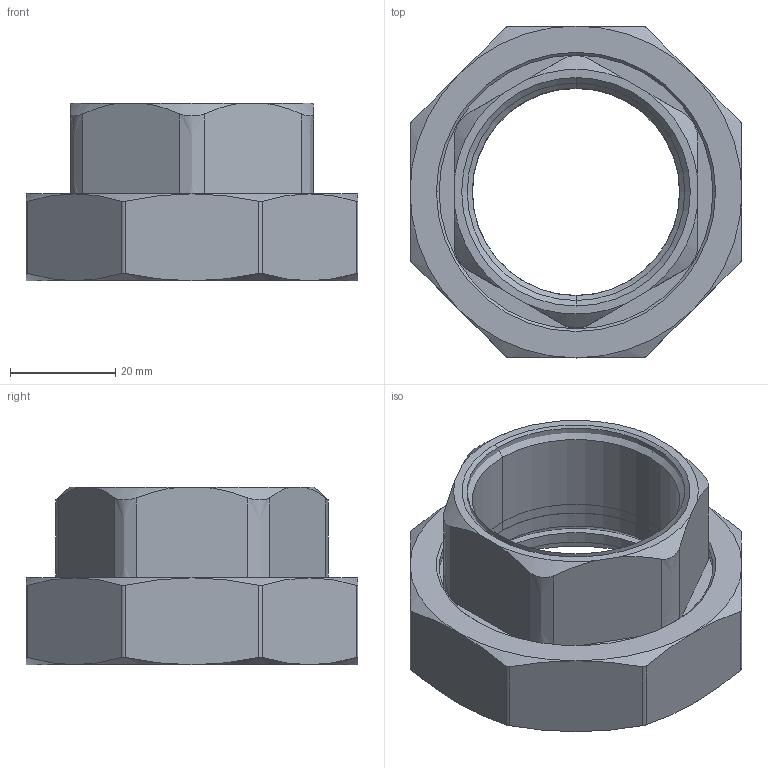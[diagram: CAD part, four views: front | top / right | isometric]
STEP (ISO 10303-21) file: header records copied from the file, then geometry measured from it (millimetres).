
FILE_DESCRIPTION((''),'2;1');
FILE_NAME('3-309-02-00405_B2-0001','2025-11-06T15:40:48',('Administrator'),(''),'CREO PARAMETRIC BY PTC INC, 2023424','CREO PARAMETRIC BY PTC INC, 2023424','');
FILE_SCHEMA(('CONFIG_CONTROL_DESIGN','SHAPE_APPEARANCE_LAYERS_GROUPS'));
Length unit declared in the file: millimetre
Products named in the file (1): 3-309-02-00405_B2-0001
Bounding box: 63 x 63 x 33.7 mm (x, y, z)
Volume: 32210.8 mm3; surface area: 25043.6 mm2
Topology: 3 solids, 5 shells, 89 faces, 212 edges, 134 vertices
Faces by surface type: cone 32, cylinder 26, plane 25, extrusion 6
Entity records: 2889 total; most frequent: CARTESIAN_POINT 832, ORIENTED_EDGE 416, DIRECTION 386, EDGE_CURVE 212, AXIS2_PLACEMENT_3D 156, VERTEX_POINT 134, EDGE_LOOP 100, FACE_OUTER_BOUND 89
